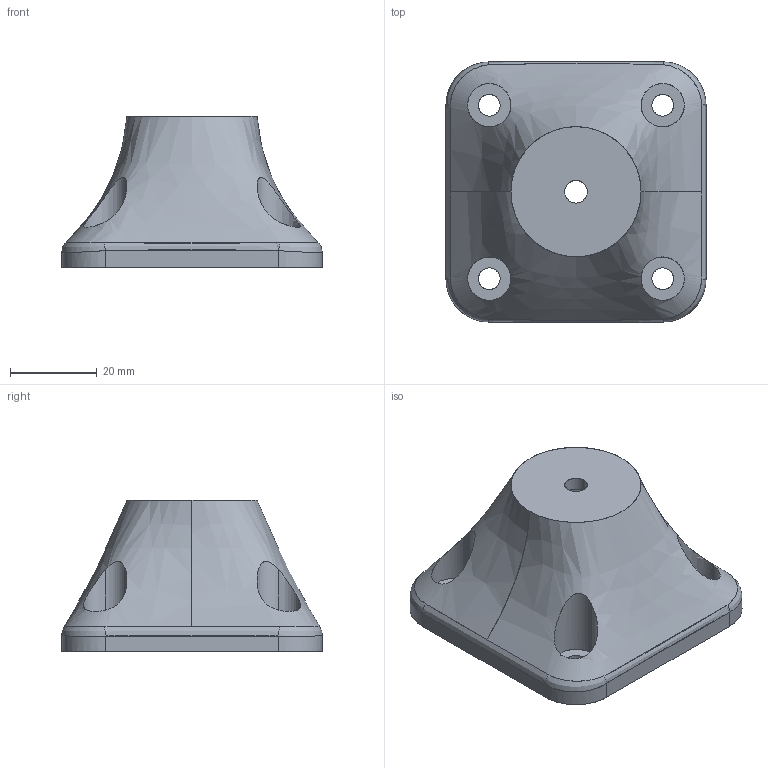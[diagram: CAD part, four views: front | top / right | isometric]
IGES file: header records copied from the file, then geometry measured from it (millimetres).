
Start section: SolidWorks IGES file using analytic representation for surfaces
Global section: file name: C:\Users\Atakan\Documents\tridi\Bantaþ kamera\step-iges\Mount.IGS; native system: SolidWorks 2015; preprocessor: SolidWorks 2015; author: Atakan; date: 161103.171435; units: millimetre
Bounding box: 60 x 60 x 35 mm (x, y, z)
Surface area: 13885.7 mm2 (no closed solid volume)
Topology: 0 solids, 0 shells, 52 faces, 1295 edges, 1295 vertices
Faces by surface type: bspline 28, revolution 24
